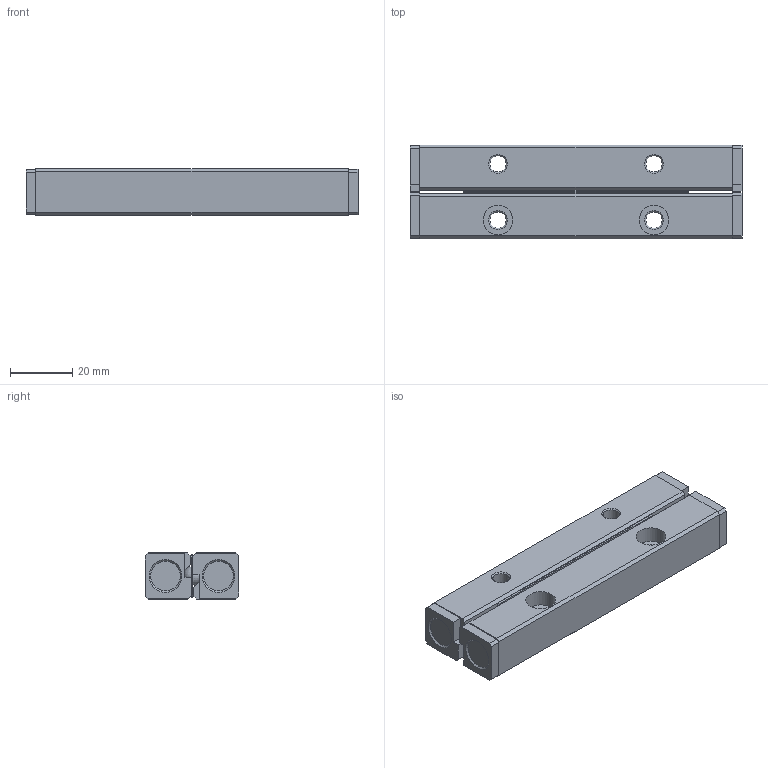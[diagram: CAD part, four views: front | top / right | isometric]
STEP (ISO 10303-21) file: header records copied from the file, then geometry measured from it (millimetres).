
FILE_DESCRIPTION(/* description */ ('STEP AP214'),/* implementation_level */ '2;1');
FILE_NAME(/* name */ 'VB6-100Hx7Z(0)',/* time_stamp */ '2024-09-19T10:03:09+02:00',/* author */ ('License CC BY-ND 4.0'),/* organization */ ('CADENAS'),/* preprocessor_version */ 'ST-DEVELOPER v19.3',/* originating_system */ 'PARTsolutions',/* authorisation */ ' ');
FILE_SCHEMA (('AUTOMOTIVE_DESIGN {1 0 10303 214 3 1 1}'));
Length unit declared in the file: millimetre
Products named in the file (3): VB6-100Hx7Z(0); VR6-100*7Z Ball guide; VR6-100*7Z Ball cage
Assembly tree (3 placements, depth 2):
  VB6-100Hx7Z(0)
    VR6-100*7Z Ball guide  x2
    VR6-100*7Z Ball cage
Bounding box: 106.4 x 30 x 15 mm (x, y, z)
Volume: 41517 mm3; surface area: 17001.2 mm2
Topology: 3 solids, 3 shells, 122 faces, 280 edges, 186 vertices
Faces by surface type: plane 88, sphere 14, cone 12, cylinder 8
Full cylindrical faces by diameter (mm): 5.2 x4, 9.5 x4
Entity records: 2032 total; most frequent: CARTESIAN_POINT 334, DIRECTION 333, ORIENTED_EDGE 298, EDGE_CURVE 149, LINE 119, VECTOR 119, VERTEX_POINT 108, AXIS2_PLACEMENT_3D 107
